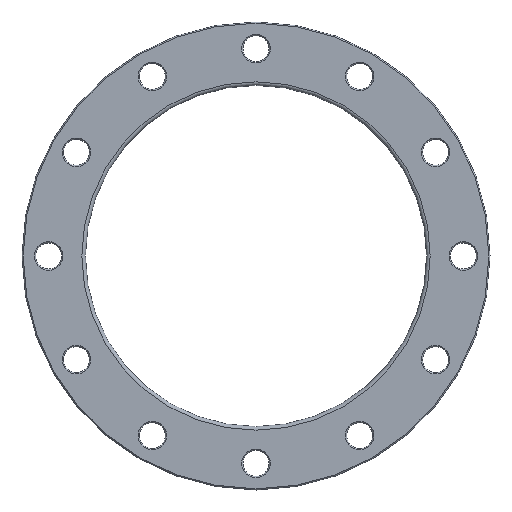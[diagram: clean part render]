
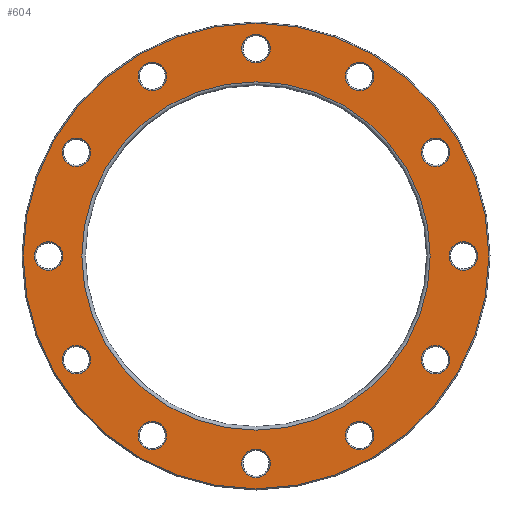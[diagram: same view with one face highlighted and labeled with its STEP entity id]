
A CAD part, front view. The second image highlights one B-rep face of the part: STEP entity #604.
In plain terms, the highlighted planar face has unit normal (0, -1, 0).
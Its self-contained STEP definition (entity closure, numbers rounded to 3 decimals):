
#23=PLANE('',#712);
#134=ORIENTED_EDGE('',*,*,#213,.T.);
#135=ORIENTED_EDGE('',*,*,#214,.T.);
#136=ORIENTED_EDGE('',*,*,#164,.T.);
#137=ORIENTED_EDGE('',*,*,#168,.T.);
#138=ORIENTED_EDGE('',*,*,#172,.T.);
#139=ORIENTED_EDGE('',*,*,#176,.T.);
#140=ORIENTED_EDGE('',*,*,#180,.T.);
#141=ORIENTED_EDGE('',*,*,#184,.T.);
#142=ORIENTED_EDGE('',*,*,#188,.T.);
#143=ORIENTED_EDGE('',*,*,#192,.T.);
#144=ORIENTED_EDGE('',*,*,#196,.T.);
#145=ORIENTED_EDGE('',*,*,#200,.T.);
#146=ORIENTED_EDGE('',*,*,#204,.T.);
#147=ORIENTED_EDGE('',*,*,#215,.T.);
#164=EDGE_CURVE('',#220,#220,#276,.T.);
#168=EDGE_CURVE('',#224,#224,#280,.T.);
#172=EDGE_CURVE('',#228,#228,#284,.T.);
#176=EDGE_CURVE('',#232,#232,#288,.T.);
#180=EDGE_CURVE('',#236,#236,#292,.T.);
#184=EDGE_CURVE('',#240,#240,#296,.T.);
#188=EDGE_CURVE('',#244,#244,#300,.T.);
#192=EDGE_CURVE('',#248,#248,#304,.T.);
#196=EDGE_CURVE('',#252,#252,#308,.T.);
#200=EDGE_CURVE('',#256,#256,#312,.T.);
#204=EDGE_CURVE('',#260,#260,#316,.T.);
#213=EDGE_CURVE('',#269,#269,#325,.F.);
#214=EDGE_CURVE('',#270,#270,#326,.T.);
#215=EDGE_CURVE('',#271,#271,#327,.T.);
#220=VERTEX_POINT('',#935);
#224=VERTEX_POINT('',#946);
#228=VERTEX_POINT('',#957);
#232=VERTEX_POINT('',#968);
#236=VERTEX_POINT('',#979);
#240=VERTEX_POINT('',#990);
#244=VERTEX_POINT('',#1001);
#248=VERTEX_POINT('',#1012);
#252=VERTEX_POINT('',#1023);
#256=VERTEX_POINT('',#1034);
#260=VERTEX_POINT('',#1045);
#269=VERTEX_POINT('',#1068);
#270=VERTEX_POINT('',#1070);
#271=VERTEX_POINT('',#1072);
#276=CIRCLE('',#629,12.);
#280=CIRCLE('',#636,12.);
#284=CIRCLE('',#643,12.);
#288=CIRCLE('',#650,12.);
#292=CIRCLE('',#657,12.);
#296=CIRCLE('',#664,12.);
#300=CIRCLE('',#671,12.);
#304=CIRCLE('',#678,12.);
#308=CIRCLE('',#685,12.);
#312=CIRCLE('',#692,12.);
#316=CIRCLE('',#699,12.);
#325=CIRCLE('',#713,196.5);
#326=CIRCLE('',#714,147.);
#327=CIRCLE('',#715,12.);
#414=EDGE_LOOP('',(#134));
#415=EDGE_LOOP('',(#135));
#416=EDGE_LOOP('',(#136));
#417=EDGE_LOOP('',(#137));
#418=EDGE_LOOP('',(#138));
#419=EDGE_LOOP('',(#139));
#420=EDGE_LOOP('',(#140));
#421=EDGE_LOOP('',(#141));
#422=EDGE_LOOP('',(#142));
#423=EDGE_LOOP('',(#143));
#424=EDGE_LOOP('',(#144));
#425=EDGE_LOOP('',(#145));
#426=EDGE_LOOP('',(#146));
#427=EDGE_LOOP('',(#147));
#526=FACE_BOUND('',#414,.T.);
#527=FACE_BOUND('',#415,.T.);
#528=FACE_BOUND('',#416,.T.);
#529=FACE_BOUND('',#417,.T.);
#530=FACE_BOUND('',#418,.T.);
#531=FACE_BOUND('',#419,.T.);
#532=FACE_BOUND('',#420,.T.);
#533=FACE_BOUND('',#421,.T.);
#534=FACE_BOUND('',#422,.T.);
#535=FACE_BOUND('',#423,.T.);
#536=FACE_BOUND('',#424,.T.);
#537=FACE_BOUND('',#425,.T.);
#538=FACE_BOUND('',#426,.T.);
#539=FACE_BOUND('',#427,.T.);
#604=ADVANCED_FACE('',(#526,#527,#528,#529,#530,#531,#532,#533,#534,#535,
#536,#537,#538,#539),#23,.F.);
#629=AXIS2_PLACEMENT_3D('',#934,#735,#736);
#636=AXIS2_PLACEMENT_3D('',#945,#749,#750);
#643=AXIS2_PLACEMENT_3D('',#956,#763,#764);
#650=AXIS2_PLACEMENT_3D('',#967,#777,#778);
#657=AXIS2_PLACEMENT_3D('',#978,#791,#792);
#664=AXIS2_PLACEMENT_3D('',#989,#805,#806);
#671=AXIS2_PLACEMENT_3D('',#1000,#819,#820);
#678=AXIS2_PLACEMENT_3D('',#1011,#833,#834);
#685=AXIS2_PLACEMENT_3D('',#1022,#847,#848);
#692=AXIS2_PLACEMENT_3D('',#1033,#861,#862);
#699=AXIS2_PLACEMENT_3D('',#1044,#875,#876);
#712=AXIS2_PLACEMENT_3D('',#1066,#901,#902);
#713=AXIS2_PLACEMENT_3D('',#1067,#903,#904);
#714=AXIS2_PLACEMENT_3D('',#1069,#905,#906);
#715=AXIS2_PLACEMENT_3D('',#1071,#907,#908);
#735=DIRECTION('',(0.,1.,0.));
#736=DIRECTION('',(0.866,0.,0.5));
#749=DIRECTION('',(0.,1.,0.));
#750=DIRECTION('',(0.5,0.,0.866));
#763=DIRECTION('',(0.,1.,0.));
#764=DIRECTION('',(0.,0.,1.));
#777=DIRECTION('',(0.,1.,0.));
#778=DIRECTION('',(-0.5,0.,0.866));
#791=DIRECTION('',(0.,1.,0.));
#792=DIRECTION('',(-0.866,0.,0.5));
#805=DIRECTION('',(0.,1.,0.));
#806=DIRECTION('',(-1.,0.,0.));
#819=DIRECTION('',(0.,1.,0.));
#820=DIRECTION('',(-0.866,0.,-0.5));
#833=DIRECTION('',(0.,1.,0.));
#834=DIRECTION('',(-0.5,0.,-0.866));
#847=DIRECTION('',(0.,1.,0.));
#848=DIRECTION('',(0.,0.,-1.));
#861=DIRECTION('',(0.,1.,0.));
#862=DIRECTION('',(0.5,0.,-0.866));
#875=DIRECTION('',(0.,1.,0.));
#876=DIRECTION('',(0.866,0.,-0.5));
#901=DIRECTION('',(0.,1.,0.));
#902=DIRECTION('',(0.,0.,1.));
#903=DIRECTION('',(0.,1.,0.));
#904=DIRECTION('',(0.,0.,1.));
#905=DIRECTION('',(0.,1.,0.));
#906=DIRECTION('',(0.,0.,1.));
#907=DIRECTION('',(0.,1.,0.));
#908=DIRECTION('',(1.,0.,0.));
#934=CARTESIAN_POINT('',(-87.5,0.,151.554));
#935=CARTESIAN_POINT('',(-77.108,0.,157.554));
#945=CARTESIAN_POINT('',(-151.554,0.,87.5));
#946=CARTESIAN_POINT('',(-145.554,0.,97.892));
#956=CARTESIAN_POINT('',(-175.,0.,0.));
#957=CARTESIAN_POINT('',(-175.,0.,12.));
#967=CARTESIAN_POINT('',(-151.554,0.,-87.5));
#968=CARTESIAN_POINT('',(-157.554,0.,-77.108));
#978=CARTESIAN_POINT('',(-87.5,0.,-151.554));
#979=CARTESIAN_POINT('',(-97.892,0.,-145.554));
#989=CARTESIAN_POINT('',(0.,0.,-175.));
#990=CARTESIAN_POINT('',(-12.,0.,-175.));
#1000=CARTESIAN_POINT('',(87.5,0.,-151.554));
#1001=CARTESIAN_POINT('',(77.108,0.,-157.554));
#1011=CARTESIAN_POINT('',(151.554,0.,-87.5));
#1012=CARTESIAN_POINT('',(145.554,0.,-97.892));
#1022=CARTESIAN_POINT('',(175.,0.,0.));
#1023=CARTESIAN_POINT('',(175.,0.,-12.));
#1033=CARTESIAN_POINT('',(151.554,0.,87.5));
#1034=CARTESIAN_POINT('',(157.554,0.,77.108));
#1044=CARTESIAN_POINT('',(87.5,0.,151.554));
#1045=CARTESIAN_POINT('',(97.892,0.,145.554));
#1066=CARTESIAN_POINT('',(0.,0.,0.));
#1067=CARTESIAN_POINT('',(0.,0.,0.));
#1068=CARTESIAN_POINT('',(0.,0.,196.5));
#1069=CARTESIAN_POINT('',(0.,0.,0.));
#1070=CARTESIAN_POINT('',(0.,0.,147.));
#1071=CARTESIAN_POINT('',(0.,0.,175.));
#1072=CARTESIAN_POINT('',(12.,0.,175.));
